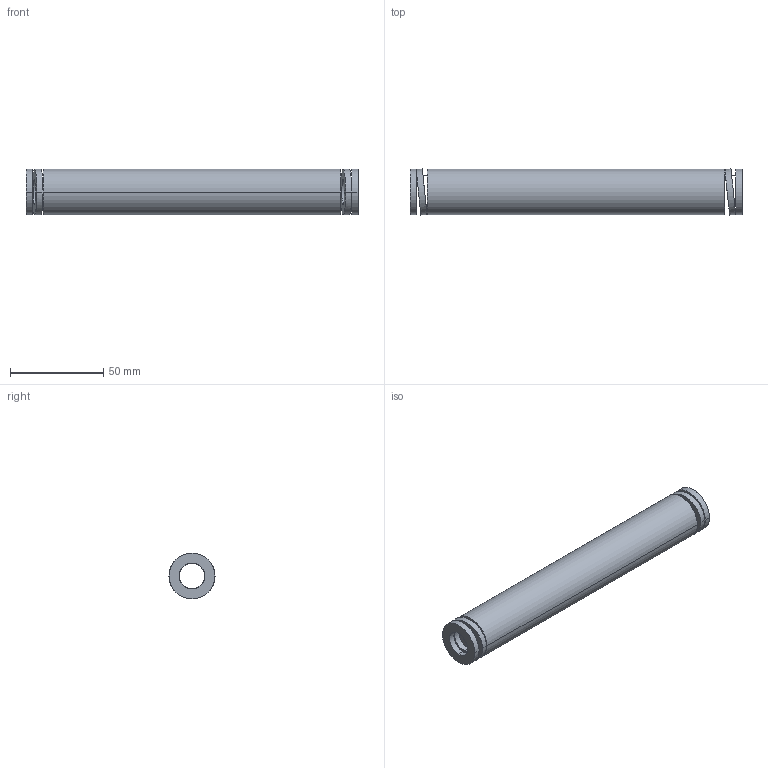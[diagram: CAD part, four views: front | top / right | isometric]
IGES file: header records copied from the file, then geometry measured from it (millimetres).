
Start section: START RECORD GO HERE.
Global section: file name: 392-B25-178.igs; native system: DASSAULT SYSTEMES CATIA V5 R20 - www.3ds.com; preprocessor: CATIA Version 5 Release 20 ; author: Utente; organization: NB04-ASUS; date: 20210813.094213; units: millimetre
Bounding box: 178 x 24.71 x 24.5 mm (x, y, z)
Surface area: 23976.7 mm2 (no closed solid volume)
Topology: 0 solids, 0 shells, 38 faces, 184 edges, 184 vertices
Faces by surface type: revolution 28, plane 10
